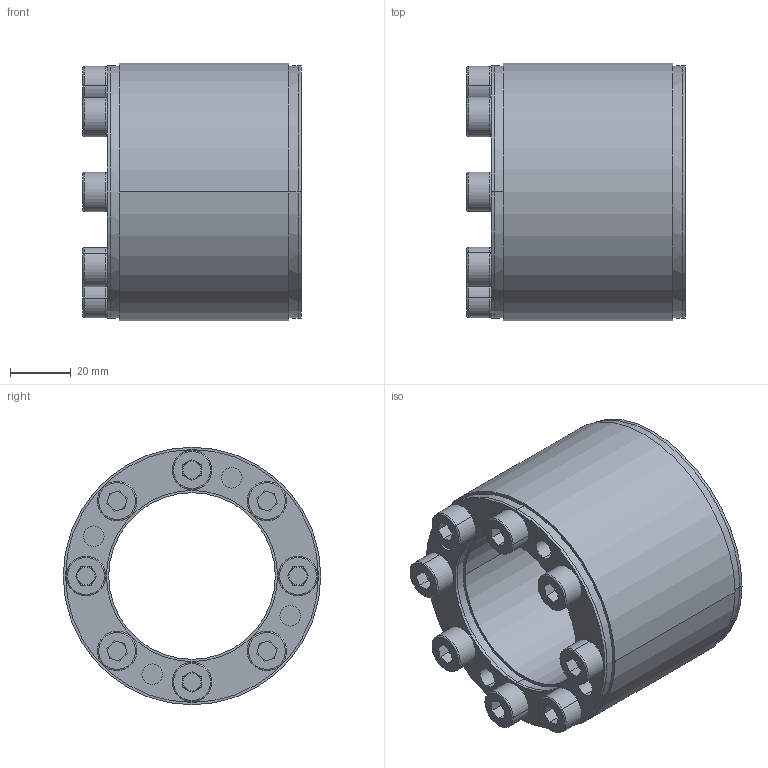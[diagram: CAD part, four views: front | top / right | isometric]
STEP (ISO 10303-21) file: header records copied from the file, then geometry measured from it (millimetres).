
FILE_DESCRIPTION (( 'STEP AP203' ), '1' );
FILE_NAME ('SAPL-D4-55-85.STEP', '2017-11-06T08:08:22', ( 'MYCOM' ), ( '' ), 'SwSTEP 2.0', 'SolidWorks 2015', '' );
FILE_SCHEMA (( 'CONFIG_CONTROL_DESIGN' ));
Length unit declared in the file: millimetre
Products named in the file (1): SAPL-D4-55-85
Bounding box: 72 x 85 x 85 mm (x, y, z)
Surface area: 52090.9 mm2 (no closed solid volume)
Topology: 0 solids, 20 shells, 220 faces, 548 edges, 344 vertices
Faces by surface type: plane 112, cylinder 68, torus 32, cone 8
Entity records: 6614 total; most frequent: DIRECTION 1270, CARTESIAN_POINT 1113, ORIENTED_EDGE 974, EDGE_CURVE 548, AXIS2_PLACEMENT_3D 501, VERTEX_POINT 344, CIRCLE 280, LINE 268
